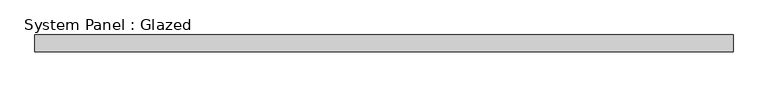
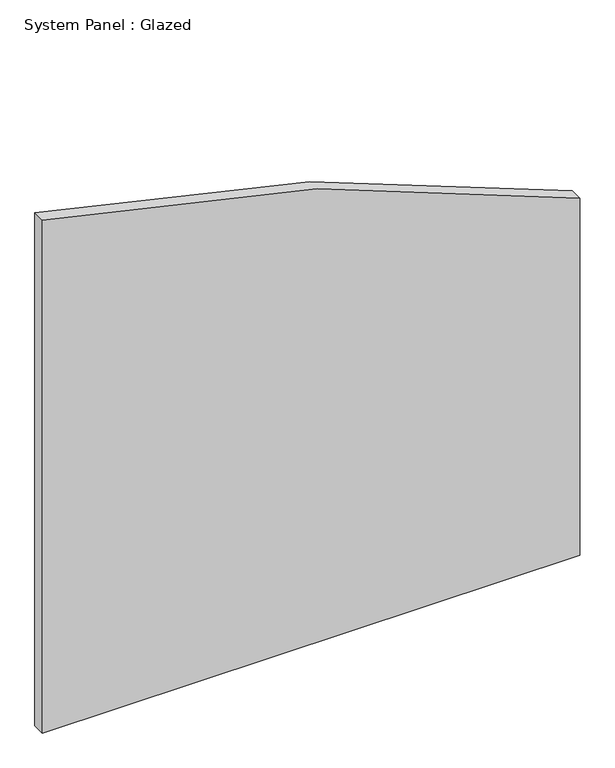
"""IFC4 building model written with IfcOpenShell, lengths in millimetres: plate geometry, System Panel : Glazed."""

from ifc_helpers import new_model, si_unit, point, frame, frame_2d, origin, place, context, project, spatial, polyline, circle_curve, trimmed, segment, composite_curve, outline, extrude, source, transform, mapped, element, save


def system_panel_glazed_f65f9e1d(model_context):
    return source(origin(), model_context, "Body", "SweptSolid", [
        extrude(outline(composite_curve([segment(polyline([(0.0, -534.3071428), (0.0, 534.3071428), (749.884866, 534.3071428)]), True, "CONTINUOUS"), segment(trimmed(circle_curve(frame_2d((-2774.95, -1132.1142856)), 3898.9), [point((749.884866, 534.3071428))], [point((1077.8474032, -534.3071428))], False, "CARTESIAN"), True, "CONTINUOUS"), segment(polyline([(1077.8474032, -534.3071428), (0.0, -534.3071428)]), True, "CONTINUOUS")], self_intersect=False)), frame((0.0, -44.45, 0.0), z_axis=(0.0, 1.0, 0.0), x_axis=(0.0, 0.0, 1.0)), (0.0, 0.0, 1.0), 25.4),
    ])


if __name__ == "__main__":
    model = new_model("IFC4")
    model_context = context("Model", 3, world=origin())
    ifc_project = project(units=[si_unit("LENGTHUNIT", "METRE", prefix="MILLI")], contexts=[model_context])
    site = spatial("IfcSite", under=ifc_project)
    building = spatial("IfcBuilding", under=site)
    placement = place(None, origin())
    system_panel_glazed_shape = system_panel_glazed_f65f9e1d(model_context)
    element("IfcPlate", 1, ObjectType="System Panel : Glazed", at=placement, inside=building, context=model_context, shape_type="MappedRepresentation", body=[
        mapped(system_panel_glazed_shape, transform((0.0, 0.0, 0.0), x_axis=(1.0, 0.0, 0.0), y_axis=(0.0, 1.0, 0.0), z_axis=(0.0, 0.0, 1.0))),
    ])
    save(model, "model.ifc")
